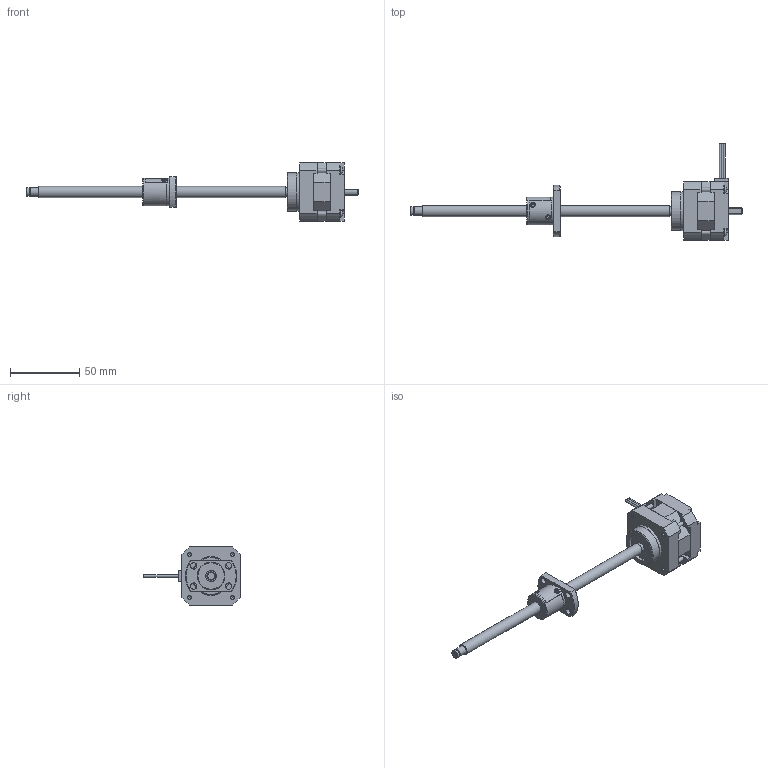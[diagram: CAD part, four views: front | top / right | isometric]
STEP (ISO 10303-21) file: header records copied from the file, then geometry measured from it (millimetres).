
FILE_DESCRIPTION( ( 'STEP AP214' ), ' ' );
FILE_NAME( 'p:/temp/worker_4/1616_1576/app_90_12017090514304273004296260eae72_000000_00_00_000000/format_0/TMB0802(75).stp', '2017-09-05T12:30:43', ( '' ), ( '' ), ' ', 'PARTsolutions', ' ' );
FILE_SCHEMA( ( 'AUTOMOTIVE_DESIGN { 1 0 10303 214 1 1 1 1 }' ) );
Length unit declared in the file: millimetre
Products named in the file (3): TMB0802(75); _TMB0802 (0)motor; _TMB0802 (75)nut
Assembly tree (2 placements, depth 2):
  TMB0802(75)
    _TMB0802 (0)motor
    _TMB0802 (75)nut
Bounding box: 239 x 69.5 x 42 mm (x, y, z)
Volume: 73613.9 mm3; surface area: 19934.3 mm2
Topology: 2 solids, 2 shells, 223 faces, 593 edges, 395 vertices
Faces by surface type: plane 153, cylinder 50, cone 16, bspline 4
Full cylindrical faces by diameter (mm): 1.5 x3, 2.459 x4, 2.5 x2, 3 x4, 3.5 x2, 4.5 x4, 5.5 x4, 5.7 x1, 6 x2, 6.3 x1, 8 x2, 19.7 x1, 20 x2, 27.5 x1, 28 x1
Entity records: 8649 total; most frequent: CARTESIAN_POINT 1601, ORIENTED_EDGE 1034, DIRECTION 1019, EDGE_CURVE 517, VERTEX_POINT 372, AXIS2_PLACEMENT_3D 340, LINE 339, VECTOR 339
